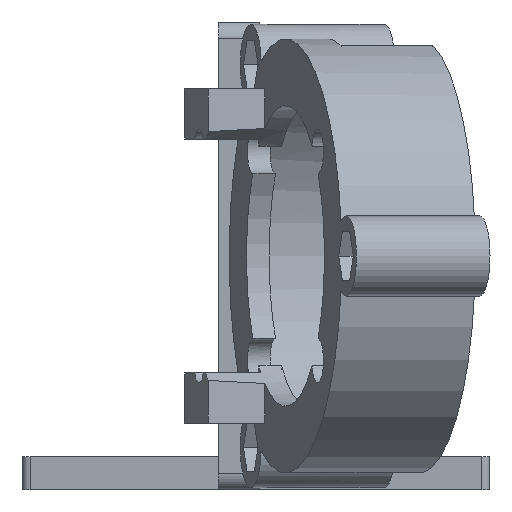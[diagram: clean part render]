
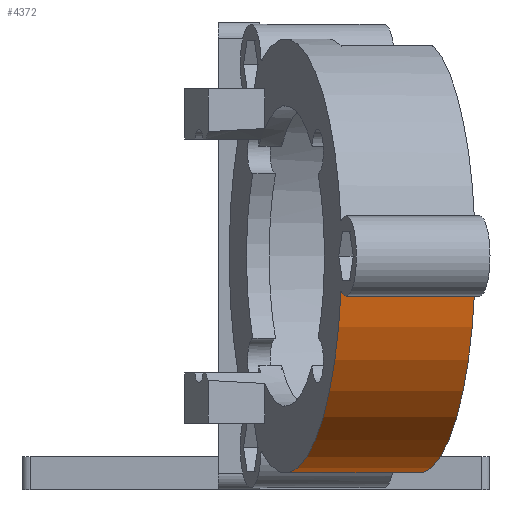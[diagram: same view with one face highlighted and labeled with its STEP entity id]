
A CAD part, left-side view. The second image highlights one B-rep face of the part: STEP entity #4372.
In plain terms, the highlighted cylindrical face has radius 26 mm (diameter 52 mm), a partial arc.
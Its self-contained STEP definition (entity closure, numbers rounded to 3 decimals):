
#71 = PLANE('',#72);
#72 = AXIS2_PLACEMENT_3D('',#73,#74,#75);
#73 = CARTESIAN_POINT('',(31.682,24.475,28.));
#74 = DIRECTION('',(0.259,-0.966,0.));
#75 = DIRECTION('',(0.966,0.259,0.));
#128 = PLANE('',#129);
#129 = AXIS2_PLACEMENT_3D('',#130,#131,#132);
#130 = CARTESIAN_POINT('',(35.966,8.489,28.));
#131 = DIRECTION('',(0.259,-0.966,0.)
  );
#132 = DIRECTION('',(0.966,0.259,0.)
  );
#275 = CYLINDRICAL_SURFACE('',#276,4.8);
#276 = AXIS2_PLACEMENT_3D('',#277,#278,#279);
#277 = CARTESIAN_POINT('',(4.636,17.228,28.));
#278 = DIRECTION('',(-0.259,0.966,0.)
  );
#279 = DIRECTION('',(0.966,0.259,0.)
  );
#1383 = CYLINDRICAL_SURFACE('',#1384,4.8);
#1384 = AXIS2_PLACEMENT_3D('',#1385,#1386,#1387);
#1385 = CARTESIAN_POINT('',(47.195,28.632,
    5.064));
#1386 = DIRECTION('',(-0.259,0.966,0.
    ));
#1387 = DIRECTION('',(0.966,0.259,0.)
  );
#4272 = VERTEX_POINT('',#4273);
#4273 = CARTESIAN_POINT('',(42.583,27.396,4.577
    ));
#4299 = EDGE_CURVE('',#4300,#4272,#4302,.T.);
#4300 = VERTEX_POINT('',#4301);
#4301 = CARTESIAN_POINT('',(46.866,11.41,
    4.577));
#4302 = SURFACE_CURVE('',#4303,(#4307,#4314),.PCURVE_S1.);
#4303 = LINE('',#4304,#4305);
#4304 = CARTESIAN_POINT('',(42.583,27.396,4.577
    ));
#4305 = VECTOR('',#4306,1.);
#4306 = DIRECTION('',(-0.259,0.966,0.
    ));
#4307 = PCURVE('',#1383,#4308);
#4308 = DEFINITIONAL_REPRESENTATION('',(#4309),#4313);
#4309 = LINE('',#4310,#4311);
#4310 = CARTESIAN_POINT('',(-3.243,0.));
#4311 = VECTOR('',#4312,1.);
#4312 = DIRECTION('',(-0.,1.));
#4313 = ( GEOMETRIC_REPRESENTATION_CONTEXT(2) 
PARAMETRIC_REPRESENTATION_CONTEXT() REPRESENTATION_CONTEXT('2D SPACE',''
  ) );
#4314 = PCURVE('',#4315,#4320);
#4315 = CYLINDRICAL_SURFACE('',#4316,26.);
#4316 = AXIS2_PLACEMENT_3D('',#4317,#4318,#4319);
#4317 = CARTESIAN_POINT('',(31.682,24.475,28.));
#4318 = DIRECTION('',(-0.259,0.966,0.
    ));
#4319 = DIRECTION('',(0.966,0.259,0.)
  );
#4320 = DEFINITIONAL_REPRESENTATION('',(#4321),#4325);
#4321 = LINE('',#4322,#4323);
#4322 = CARTESIAN_POINT('',(-5.161,0.));
#4323 = VECTOR('',#4324,1.);
#4324 = DIRECTION('',(-0.,1.));
#4325 = ( GEOMETRIC_REPRESENTATION_CONTEXT(2) 
PARAMETRIC_REPRESENTATION_CONTEXT() REPRESENTATION_CONTEXT('2D SPACE',''
  ) );
#4372 = ADVANCED_FACE('',(#4373),#4315,.T.);
#4373 = FACE_BOUND('',#4374,.F.);
#4374 = EDGE_LOOP('',(#4375,#4399,#4422,#4448));
#4375 = ORIENTED_EDGE('',*,*,#4376,.F.);
#4376 = EDGE_CURVE('',#4377,#4272,#4379,.T.);
#4377 = VERTEX_POINT('',#4378);
#4378 = CARTESIAN_POINT('',(6.897,17.834,
    23.809));
#4379 = SURFACE_CURVE('',#4380,(#4385,#4392),.PCURVE_S1.);
#4380 = CIRCLE('',#4381,26.);
#4381 = AXIS2_PLACEMENT_3D('',#4382,#4383,#4384);
#4382 = CARTESIAN_POINT('',(31.682,24.475,28.));
#4383 = DIRECTION('',(0.259,-0.966,0.)
  );
#4384 = DIRECTION('',(0.419,0.112,0.901));
#4385 = PCURVE('',#4315,#4386);
#4386 = DEFINITIONAL_REPRESENTATION('',(#4387),#4391);
#4387 = LINE('',#4388,#4389);
#4388 = CARTESIAN_POINT('',(-1.122,0.));
#4389 = VECTOR('',#4390,1.);
#4390 = DIRECTION('',(-1.,0.));
#4391 = ( GEOMETRIC_REPRESENTATION_CONTEXT(2) 
PARAMETRIC_REPRESENTATION_CONTEXT() REPRESENTATION_CONTEXT('2D SPACE',''
  ) );
#4392 = PCURVE('',#71,#4393);
#4393 = DEFINITIONAL_REPRESENTATION('',(#4394),#4398);
#4394 = CIRCLE('',#4395,26.);
#4395 = AXIS2_PLACEMENT_2D('',#4396,#4397);
#4396 = CARTESIAN_POINT('',(0.,0.));
#4397 = DIRECTION('',(0.434,0.901));
#4398 = ( GEOMETRIC_REPRESENTATION_CONTEXT(2) 
PARAMETRIC_REPRESENTATION_CONTEXT() REPRESENTATION_CONTEXT('2D SPACE',''
  ) );
#4399 = ORIENTED_EDGE('',*,*,#4400,.F.);
#4400 = EDGE_CURVE('',#4401,#4377,#4403,.T.);
#4401 = VERTEX_POINT('',#4402);
#4402 = CARTESIAN_POINT('',(11.18,1.848,
    23.809));
#4403 = SURFACE_CURVE('',#4404,(#4408,#4415),.PCURVE_S1.);
#4404 = LINE('',#4405,#4406);
#4405 = CARTESIAN_POINT('',(6.897,17.834,
    23.809));
#4406 = VECTOR('',#4407,1.);
#4407 = DIRECTION('',(-0.259,0.966,0.
    ));
#4408 = PCURVE('',#4315,#4409);
#4409 = DEFINITIONAL_REPRESENTATION('',(#4410),#4414);
#4410 = LINE('',#4411,#4412);
#4411 = CARTESIAN_POINT('',(-3.303,0.));
#4412 = VECTOR('',#4413,1.);
#4413 = DIRECTION('',(-0.,1.));
#4414 = ( GEOMETRIC_REPRESENTATION_CONTEXT(2) 
PARAMETRIC_REPRESENTATION_CONTEXT() REPRESENTATION_CONTEXT('2D SPACE',''
  ) );
#4415 = PCURVE('',#275,#4416);
#4416 = DEFINITIONAL_REPRESENTATION('',(#4417),#4421);
#4417 = LINE('',#4418,#4419);
#4418 = CARTESIAN_POINT('',(-5.222,0.));
#4419 = VECTOR('',#4420,1.);
#4420 = DIRECTION('',(-0.,1.));
#4421 = ( GEOMETRIC_REPRESENTATION_CONTEXT(2) 
PARAMETRIC_REPRESENTATION_CONTEXT() REPRESENTATION_CONTEXT('2D SPACE',''
  ) );
#4422 = ORIENTED_EDGE('',*,*,#4423,.F.);
#4423 = EDGE_CURVE('',#4300,#4401,#4424,.T.);
#4424 = SURFACE_CURVE('',#4425,(#4430,#4437),.PCURVE_S1.);
#4425 = CIRCLE('',#4426,26.);
#4426 = AXIS2_PLACEMENT_3D('',#4427,#4428,#4429);
#4427 = CARTESIAN_POINT('',(35.966,8.489,28.));
#4428 = DIRECTION('',(-0.259,0.966,0.
    ));
#4429 = DIRECTION('',(0.674,0.181,0.716));
#4430 = PCURVE('',#4315,#4431);
#4431 = DEFINITIONAL_REPRESENTATION('',(#4432),#4436);
#4432 = LINE('',#4433,#4434);
#4433 = CARTESIAN_POINT('',(-7.081,-16.55));
#4434 = VECTOR('',#4435,1.);
#4435 = DIRECTION('',(1.,-0.));
#4436 = ( GEOMETRIC_REPRESENTATION_CONTEXT(2) 
PARAMETRIC_REPRESENTATION_CONTEXT() REPRESENTATION_CONTEXT('2D SPACE',''
  ) );
#4437 = PCURVE('',#128,#4438);
#4438 = DEFINITIONAL_REPRESENTATION('',(#4439),#4447);
#4439 = ( BOUNDED_CURVE() B_SPLINE_CURVE(2,(#4440,#4441,#4442,#4443,
#4444,#4445,#4446),.UNSPECIFIED.,.T.,.F.) B_SPLINE_CURVE_WITH_KNOTS((1,2
    ,2,2,2,1),(-2.094,0.,2.094,4.189,
6.283,8.378),.UNSPECIFIED.) CURVE() 
GEOMETRIC_REPRESENTATION_ITEM() RATIONAL_B_SPLINE_CURVE((1.,0.5,1.,0.5,
1.,0.5,1.)) REPRESENTATION_ITEM('') );
#4440 = CARTESIAN_POINT('',(18.151,18.616));
#4441 = CARTESIAN_POINT('',(50.394,-12.823));
#4442 = CARTESIAN_POINT('',(7.046,-25.027));
#4443 = CARTESIAN_POINT('',(-36.302,-37.231));
#4444 = CARTESIAN_POINT('',(-25.197,6.411));
#4445 = CARTESIAN_POINT('',(-14.092,50.054));
#4446 = CARTESIAN_POINT('',(18.151,18.616));
#4447 = ( GEOMETRIC_REPRESENTATION_CONTEXT(2) 
PARAMETRIC_REPRESENTATION_CONTEXT() REPRESENTATION_CONTEXT('2D SPACE',''
  ) );
#4448 = ORIENTED_EDGE('',*,*,#4299,.T.);
